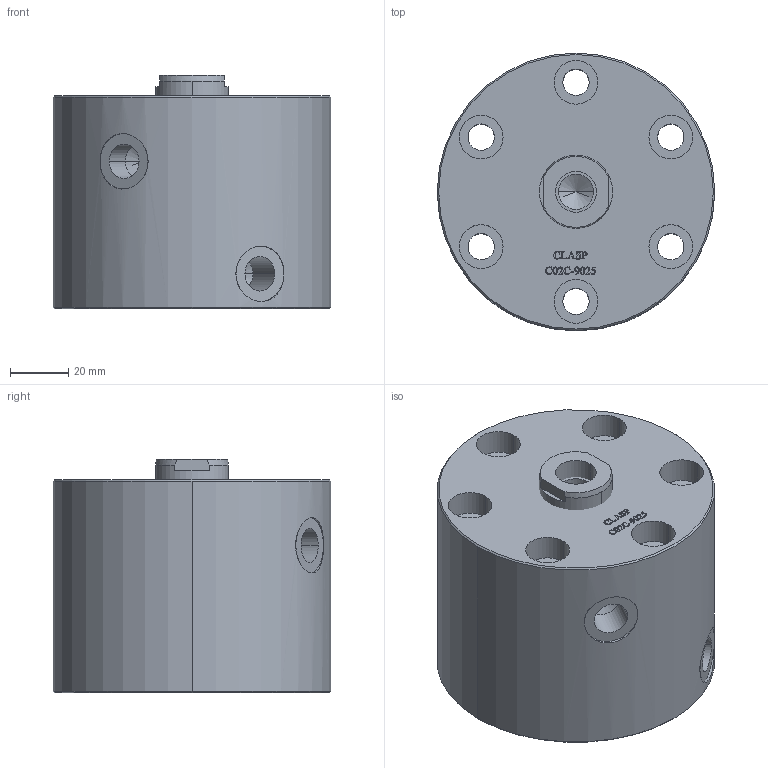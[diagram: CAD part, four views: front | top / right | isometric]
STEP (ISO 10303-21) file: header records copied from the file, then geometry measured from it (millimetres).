
FILE_DESCRIPTION (( 'STEP AP203' ), '1' );
FILE_NAME ('C02C-9025.STEP', '2022-07-09T17:51:36', ( '' ), ( '' ), 'SwSTEP 2.0', 'SolidWorks 2017', '' );
FILE_SCHEMA (( 'CONFIG_CONTROL_DESIGN' ));
Length unit declared in the file: millimetre
Products named in the file (3): C02C-9025-housing-2; C02C-9025-piston-2; C02C-9025
Assembly tree (2 placements, depth 2):
  C02C-9025
    C02C-9025-housing-2
    C02C-9025-piston-2
Bounding box: 95 x 95 x 80 mm (x, y, z)
Volume: 496631.5 mm3; surface area: 56794.4 mm2
Topology: 2 solids, 2 shells, 325 faces, 868 edges, 572 vertices
Faces by surface type: bspline 157, plane 115, cylinder 40, cone 13
Entity records: 17391 total; most frequent: CARTESIAN_POINT 10002, ORIENTED_EDGE 1724, DIRECTION 973, EDGE_CURVE 862, VERTEX_POINT 572, VECTOR 453, LINE 453, EDGE_LOOP 368
